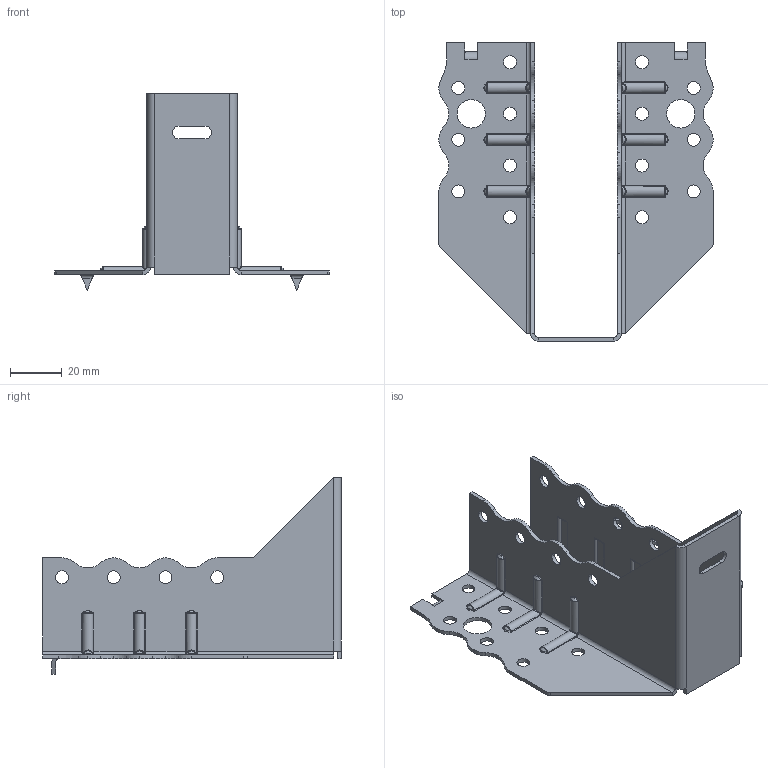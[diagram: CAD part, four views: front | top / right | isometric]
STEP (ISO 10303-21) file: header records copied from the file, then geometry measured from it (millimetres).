
FILE_DESCRIPTION (( 'STEP AP203' ), '1' );
FILE_NAME ('30653TOP.STEP', '2021-04-06T15:57:41', ( '' ), ( '' ), 'SwSTEP 2.0', 'SolidWorks 2013', '' );
FILE_SCHEMA (( 'CONFIG_CONTROL_DESIGN' ));
Length unit declared in the file: millimetre
Products named in the file (1): 30653TOP
Bounding box: 106 x 115.5 x 76 mm (x, y, z)
Volume: 26624.9 mm3; surface area: 37767.8 mm2
Topology: 1 solids, 1 shells, 400 faces, 994 edges, 596 vertices
Faces by surface type: cylinder 193, plane 93, bspline 90, torus 12, sphere 12
Entity records: 17686 total; most frequent: CARTESIAN_POINT 8561, ORIENTED_EDGE 1988, DIRECTION 1786, EDGE_CURVE 994, AXIS2_PLACEMENT_3D 675, VERTEX_POINT 596, EDGE_LOOP 450, LINE 436
